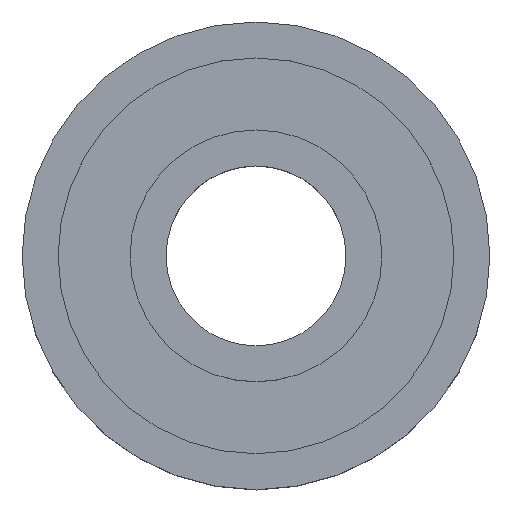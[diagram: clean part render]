
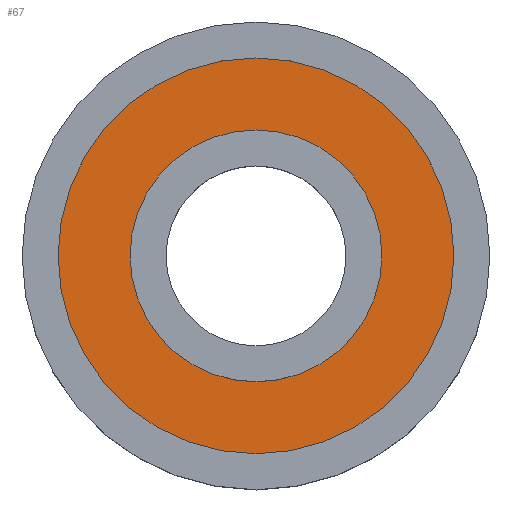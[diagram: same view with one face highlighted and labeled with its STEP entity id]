
A CAD part, top view. The second image highlights one B-rep face of the part: STEP entity #67.
In plain terms, the highlighted planar face has unit normal (0, 0, 1).
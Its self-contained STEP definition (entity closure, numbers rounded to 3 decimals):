
#67=ADVANCED_FACE('',(#135,#137),#139,.T.);
#135=FACE_BOUND('',#136,.T.);
#136=EDGE_LOOP('',(#201));
#137=FACE_BOUND('',#138,.T.);
#138=EDGE_LOOP('',(#202));
#139=PLANE('',#140);
#140=AXIS2_PLACEMENT_3D('',#141,#142,#143);
#141=CARTESIAN_POINT('',(0.,0.,3.5));
#142=DIRECTION('',(0.,0.,1.));
#143=DIRECTION('',(1.,0.,0.));
#201=ORIENTED_EDGE('',*,*,#221,.F.);
#202=ORIENTED_EDGE('',*,*,#219,.F.);
#219=EDGE_CURVE('',#237,#237,#238,.T.);
#221=EDGE_CURVE('',#241,#241,#242,.T.);
#237=VERTEX_POINT('',#279);
#238=CIRCLE('',#280,7.);
#241=VERTEX_POINT('',#289);
#242=CIRCLE('',#290,11.);
#279=CARTESIAN_POINT('',(7.,0.,3.5));
#280=AXIS2_PLACEMENT_3D('',#281,#282,#283);
#281=CARTESIAN_POINT('',(0.,0.,3.5));
#282=DIRECTION('',(0.,0.,1.));
#283=DIRECTION('',(1.,0.,0.));
#289=CARTESIAN_POINT('',(11.,0.,3.5));
#290=AXIS2_PLACEMENT_3D('',#291,#292,#293);
#291=CARTESIAN_POINT('',(0.,0.,3.5));
#292=DIRECTION('',(0.,0.,-1.));
#293=DIRECTION('',(1.,0.,0.));
